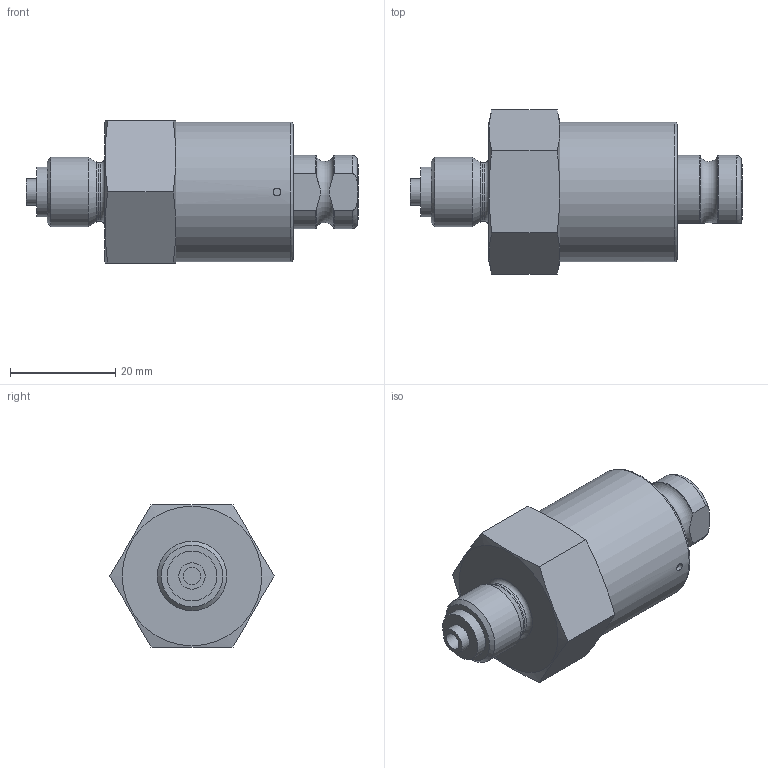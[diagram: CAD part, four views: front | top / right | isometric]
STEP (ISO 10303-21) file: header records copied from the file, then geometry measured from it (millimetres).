
FILE_DESCRIPTION(/* description */ (''),/* implementation_level */ '2;1');
FILE_NAME(/* name */ 'E:\Daten\BDS Inventor\DM01-M0K-1002-0-B1-400-1-000.stp',/* time_stamp */ '2019-12-10T16:34:01+01:00',/* author */ ('de2015'),/* organization */ ('BD|SENSORS'),/* preprocessor_version */ 'ST-DEVELOPER v16.5',/* originating_system */ 'Autodesk Inventor 2017',/* authorisation */ '');
FILE_SCHEMA (('AUTOMOTIVE_DESIGN { 1 0 10303 214 3 1 1 }'));
Length unit declared in the file: millimetre
Products named in the file (1): DM01-M0K-1002-0-B1-400-1-000
Bounding box: 63.1 x 31.18 x 27 mm (x, y, z)
Volume: 23374.5 mm3; surface area: 7121.1 mm2
Topology: 1 solids, 17 shells, 293 faces, 708 edges, 465 vertices
Faces by surface type: plane 149, bspline 62, cylinder 42, cone 21, torus 19
Full cylindrical faces by diameter (mm): 1 x10, 1.5 x1, 3.3 x1, 5 x1, 8.5 x4, 9.4 x4, 9.5 x3, 10.5 x1, 10.7 x1, 11.2 x1, 13.16 x1, 17.8 x2, 20.8 x2, 24.806 x1, 26.5 x1
Entity records: 8701 total; most frequent: CARTESIAN_POINT 2299, ORIENTED_EDGE 1218, DIRECTION 1061, EDGE_CURVE 609, VERTEX_POINT 439, EDGE_LOOP 398, AXIS2_PLACEMENT_3D 360, LINE 341
